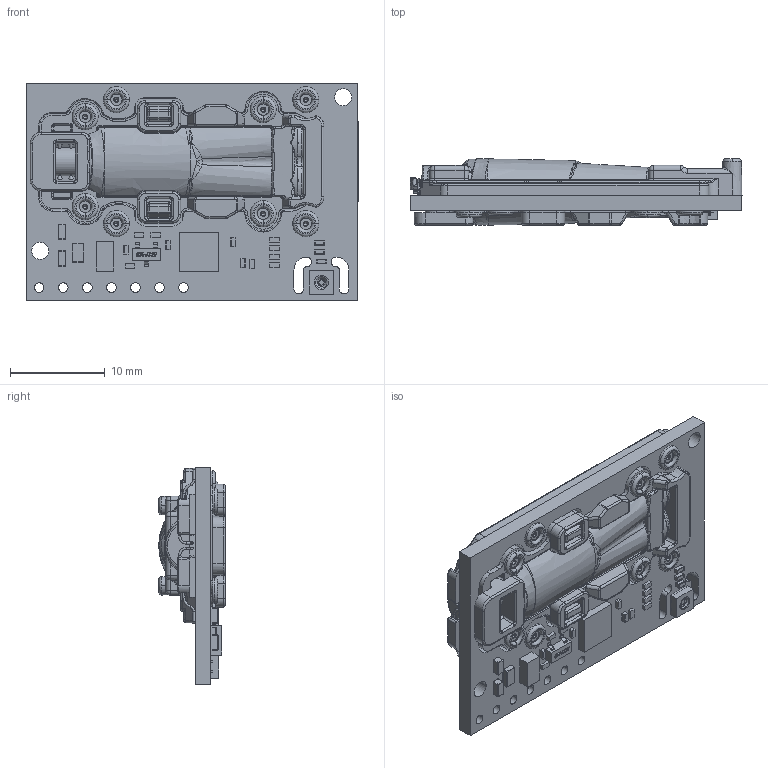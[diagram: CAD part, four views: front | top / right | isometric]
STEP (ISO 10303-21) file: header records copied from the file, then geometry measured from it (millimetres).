
FILE_DESCRIPTION (( 'STEP AP203' ), '1' );
FILE_NAME ('127248-_Publikationsmodell Zimba V10.step', '2018-05-18T09:28:26', ( 'IT' ), ( '' ), 'SwSTEP 2.0', 'SolidWorks 2017', '' );
FILE_SCHEMA (( 'CONFIG_CONTROL_DESIGN' ));
Length unit declared in the file: millimetre
Products named in the file (1): 127248-_Publikationsmodell Zimba V10
Bounding box: 35.07 x 7 x 23 mm (x, y, z)
Volume: 2660.3 mm3; surface area: 4359.3 mm2
Topology: 25 solids, 26 shells, 2292 faces, 5581 edges, 3237 vertices
Faces by surface type: cylinder 694, plane 642, bspline 551, torus 162, sphere 148, cone 95
Entity records: 73604 total; most frequent: CARTESIAN_POINT 25088, ORIENTED_EDGE 10834, DIRECTION 9339, EDGE_CURVE 5417, AXIS2_PLACEMENT_3D 3499, VERTEX_POINT 3236, EDGE_LOOP 2403, VECTOR 2341
